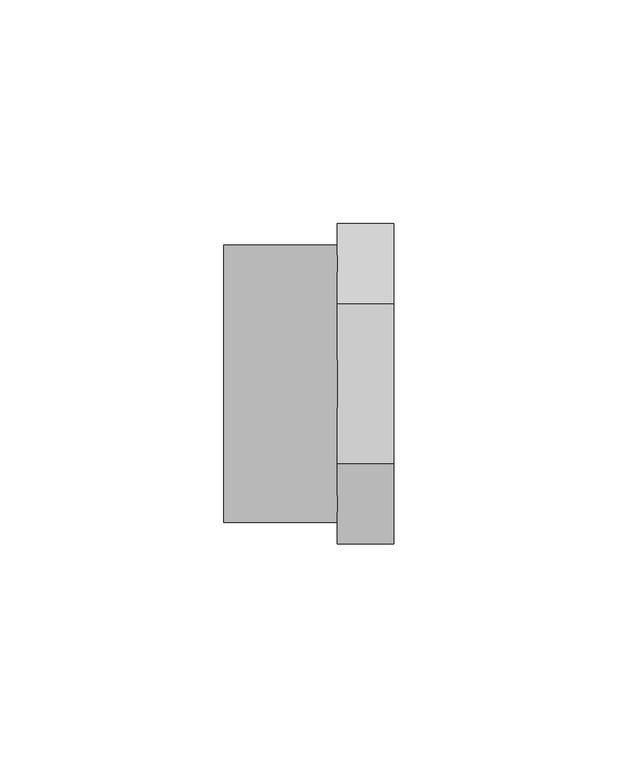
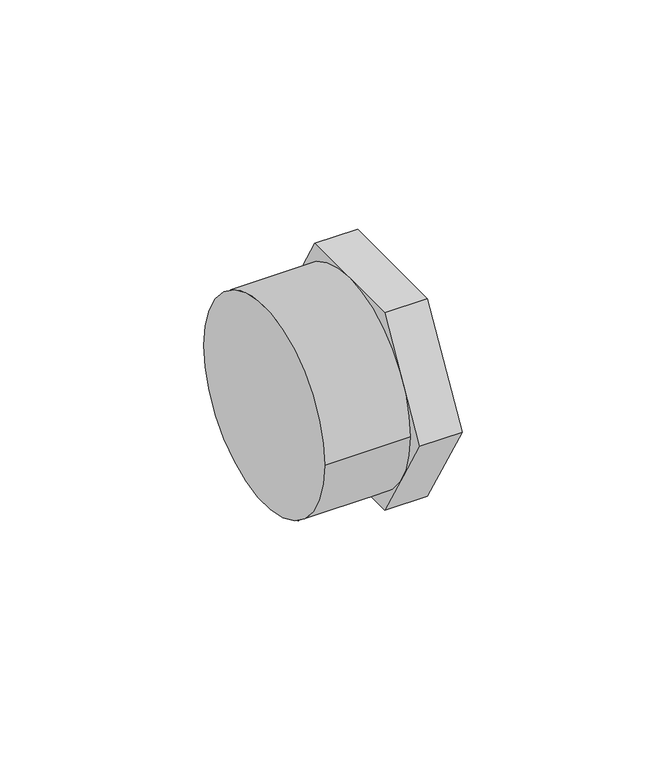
"""IFC4 building model written with IfcOpenShell, lengths in millimetres: pipe fitting geometry, 01011080 : Redução curta M/F."""

from ifc_helpers import new_model, si_unit, point, frame, origin, origin_2d, place, context, project, spatial, circle_curve, trimmed, segment, composite_curve, outline, extrude, faceted_brep, source, transform, mapped, element, save


def pipe_fitting_ea60cb1c(model_context):
    return source(origin(), model_context, "Body", "SolidModel", [
        extrude(outline(composite_curve([segment(trimmed(circle_curve(origin_2d(), 31.025), [point((-31.025, 0.0))], [point((31.025, 0.0))], False, "CARTESIAN"), True, "CONTINUOUS"), segment(trimmed(circle_curve(origin_2d(), 31.025), [point((31.025, 0.0))], [point((-31.025, 0.0))], False, "CARTESIAN"), True, "CONTINUOUS")], self_intersect=False)), frame((0.0, 0.0, 0.0), z_axis=(1.0, 0.0, 0.0), x_axis=(0.0, 1.0, 0.0)), (0.0, 0.0, 1.0), 25.3333333),
        faceted_brep([(38.0, -17.8978583, 31.0), (38.0, -35.7957167, 0.0), (38.0, -17.8978583, -31.0), (38.0, 17.8978583, -31.0), (38.0, 35.7957167, 0.0), (38.0, 17.8978583, 31.0), (25.3333333, -17.8978583, 31.0), (25.3333333, -1.2452409, 31.0), (25.3333333, 1.2452409, 31.0), (25.3333333, 17.8978583, 31.0), (25.3333333, 26.224167, 16.5784103), (25.3333333, 27.469408, 14.4215897), (25.3333333, 35.7957167, 0.0), (25.3333333, 27.469408, -14.4215897), (25.3333333, 26.224167, -16.5784103), (25.3333333, 17.8978583, -31.0), (25.3333333, 1.2452409, -31.0), (25.3333333, -1.2452409, -31.0), (25.3333333, -17.8978583, -31.0), (25.3333333, -26.224167, -16.5784103), (25.3333333, -27.469408, -14.4215897), (25.3333333, -35.7957167, 0.0), (25.3333333, -27.469408, 14.4215897), (25.3333333, -26.224167, 16.5784103)], [[[0, 1, 2, 3, 4, 5]], [[6, 7, 8, 9, 10, 11, 12, 13, 14, 15, 16, 17, 18, 19, 20, 21, 22, 23]], [[1, 0, 6, 23, 22, 21]], [[2, 1, 21, 20, 19, 18]], [[3, 2, 18, 17, 16, 15]], [[4, 3, 15, 14, 13, 12]], [[5, 4, 12, 11, 10, 9]], [[0, 5, 9, 8, 7, 6]]]),
    ])


if __name__ == "__main__":
    model = new_model("IFC4")
    model_context = context("Model", 3, world=origin())
    ifc_project = project(units=[si_unit("LENGTHUNIT", "METRE", prefix="MILLI")], contexts=[model_context])
    site = spatial("IfcSite", under=ifc_project)
    building = spatial("IfcBuilding", under=site)
    placement = place(None, origin())
    pipe_fitting_shape = pipe_fitting_ea60cb1c(model_context)
    element("IfcPipeFitting", 1, ObjectType="01011080 : Redução curta M/F", at=placement, inside=building, context=model_context, shape_type="MappedRepresentation", body=[
        mapped(pipe_fitting_shape, transform((0.0, 0.0, 0.0), x_axis=(1.0, 0.0, 0.0), y_axis=(0.0, 1.0, 0.0), z_axis=(0.0, 0.0, 1.0))),
    ])
    save(model, "model.ifc")
